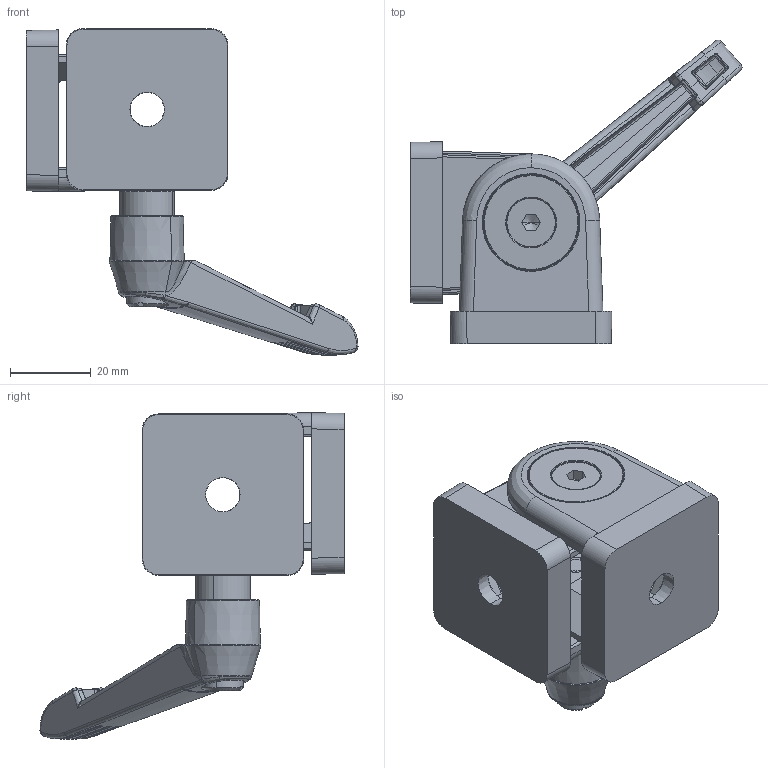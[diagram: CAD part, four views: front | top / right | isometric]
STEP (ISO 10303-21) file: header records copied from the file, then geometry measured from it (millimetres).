
FILE_DESCRIPTION (( 'STEP AP203' ), '1' );
FILE_NAME ('TCFJ 40A Stay bracket with Locking lever (01-06-2021).STEP', '2021-06-01T06:09:28', ( '' ), ( '' ), 'SwSTEP 2.0', 'SolidWorks 2020', '' );
FILE_SCHEMA (( 'CONFIG_CONTROL_DESIGN' ));
Length unit declared in the file: millimetre
Products named in the file (9): MB00960801; MB00963301; MB00034001; MB00963101; MB00963201; MB00963401; TCFJ 40A Stay bracket with Locking lever (01-06-2021); MB00963501; MB00962701
Assembly tree (10 placements, depth 3):
  TCFJ 40A Stay bracket with Locking lever (01-06-2021)
    MB00963101  x2
    MB00963201  x2
    MB00960801
    MB00034001
    MB00962701
    MB00963301
      MB00963501
      MB00963401
Bounding box: 82.23 x 75.32 x 80.86 mm (x, y, z)
Volume: 56727.7 mm3; surface area: 30755.1 mm2
Topology: 9 solids, 10 shells, 658 faces, 1554 edges, 911 vertices
Faces by surface type: bspline 265, cylinder 176, plane 150, cone 66, torus 1
Entity records: 23003 total; most frequent: CARTESIAN_POINT 11569, ORIENTED_EDGE 2466, DIRECTION 1813, EDGE_CURVE 1233, AXIS2_PLACEMENT_3D 748, VERTEX_POINT 733, EDGE_LOOP 562, ADVANCED_FACE 532
